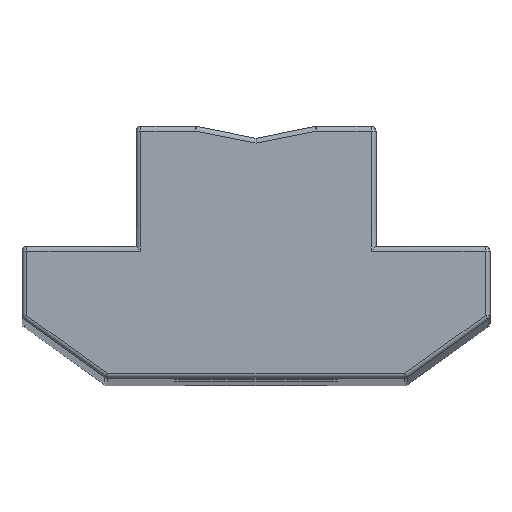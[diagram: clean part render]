
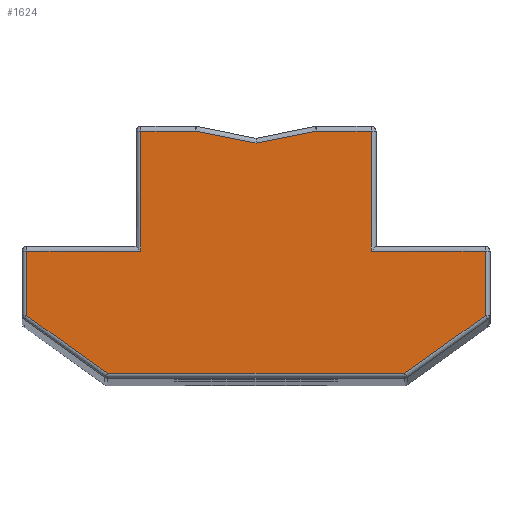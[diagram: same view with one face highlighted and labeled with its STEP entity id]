
A CAD part, top view. The second image highlights one B-rep face of the part: STEP entity #1624.
In plain terms, the highlighted planar face has unit normal (0, 0, 1).
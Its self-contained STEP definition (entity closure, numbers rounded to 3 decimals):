
#1 = VERTEX_POINT ( 'NONE', #2025 ) ;
#5 = LINE ( 'NONE', #2404, #1922 ) ;
#42 = VERTEX_POINT ( 'NONE', #1827 ) ;
#73 = EDGE_CURVE ( 'NONE', #1657, #575, #5, .T. ) ;
#88 = LINE ( 'NONE', #628, #454 ) ;
#99 = VERTEX_POINT ( 'NONE', #1658 ) ;
#112 = ORIENTED_EDGE ( 'NONE', *, *, #166, .T. ) ;
#118 = ORIENTED_EDGE ( 'NONE', *, *, #1436, .T. ) ;
#133 = LINE ( 'NONE', #1544, #499 ) ;
#140 = DIRECTION ( 'NONE',  ( 0., -1., 0. ) ) ;
#164 = CARTESIAN_POINT ( 'NONE',  ( 2.52, 10.3, 90. ) ) ;
#166 = EDGE_CURVE ( 'NONE', #1, #99, #2318, .T. ) ;
#176 = ORIENTED_EDGE ( 'NONE', *, *, #898, .T. ) ;
#181 = VECTOR ( 'NONE', #1756, 1000. ) ;
#198 = VERTEX_POINT ( 'NONE', #2414 ) ;
#245 = DIRECTION ( 'NONE',  ( 0., 0., -1. ) ) ;
#273 = LINE ( 'NONE', #2392, #2197 ) ;
#295 = ORIENTED_EDGE ( 'NONE', *, *, #1137, .T. ) ;
#297 = LINE ( 'NONE', #1564, #181 ) ;
#302 = CARTESIAN_POINT ( 'NONE',  ( 9.55, 5.3, 90. ) ) ;
#303 = VECTOR ( 'NONE', #932, 1000. ) ;
#308 = CARTESIAN_POINT ( 'NONE',  ( 0., 5.3, 90. ) ) ;
#337 = VERTEX_POINT ( 'NONE', #302 ) ;
#352 = EDGE_CURVE ( 'NONE', #337, #567, #1475, .T. ) ;
#364 = LINE ( 'NONE', #2010, #2174 ) ;
#427 = CARTESIAN_POINT ( 'NONE',  ( 6.186, 0.2, 90. ) ) ;
#454 = VECTOR ( 'NONE', #2125, 1000. ) ;
#457 = AXIS2_PLACEMENT_3D ( 'NONE', #1386, #245, #1545 ) ;
#476 = VECTOR ( 'NONE', #488, 1000. ) ;
#481 = ORIENTED_EDGE ( 'NONE', *, *, #549, .T. ) ;
#488 = DIRECTION ( 'NONE',  ( -1., 0., 0. ) ) ;
#492 = EDGE_CURVE ( 'NONE', #198, #942, #2120, .T. ) ;
#499 = VECTOR ( 'NONE', #818, 1000. ) ;
#549 = EDGE_CURVE ( 'NONE', #1519, #1107, #133, .T. ) ;
#567 = VERTEX_POINT ( 'NONE', #1009 ) ;
#575 = VERTEX_POINT ( 'NONE', #1562 ) ;
#589 = CARTESIAN_POINT ( 'NONE',  ( 0., 10.3, 90. ) ) ;
#618 = EDGE_CURVE ( 'NONE', #1394, #1, #88, .T. ) ;
#623 = CARTESIAN_POINT ( 'NONE',  ( 9.55, 0., 90. ) ) ;
#628 = CARTESIAN_POINT ( 'NONE',  ( 1.884, 9.419, 90. ) ) ;
#676 = ORIENTED_EDGE ( 'NONE', *, *, #73, .T. ) ;
#697 = ORIENTED_EDGE ( 'NONE', *, *, #1686, .T. ) ;
#734 = VECTOR ( 'NONE', #1751, 1000. ) ;
#743 = CARTESIAN_POINT ( 'NONE',  ( -4.8, 5.3, 90. ) ) ;
#812 = CARTESIAN_POINT ( 'NONE',  ( 1.995, -2.793, 90. ) ) ;
#818 = DIRECTION ( 'NONE',  ( 1., 0., 0. ) ) ;
#821 = CARTESIAN_POINT ( 'NONE',  ( 4.8, 0., 90. ) ) ;
#864 = FACE_OUTER_BOUND ( 'NONE', #1862, .T. ) ;
#866 = LINE ( 'NONE', #623, #926 ) ;
#898 = EDGE_CURVE ( 'NONE', #99, #2106, #364, .T. ) ;
#924 = CARTESIAN_POINT ( 'NONE',  ( 0., 10.3, 90. ) ) ;
#926 = VECTOR ( 'NONE', #1931, 1000. ) ;
#932 = DIRECTION ( 'NONE',  ( -1., 0., 0. ) ) ;
#942 = VERTEX_POINT ( 'NONE', #164 ) ;
#957 = ORIENTED_EDGE ( 'NONE', *, *, #1411, .T. ) ;
#992 = PLANE ( 'NONE',  #457 ) ;
#1009 = CARTESIAN_POINT ( 'NONE',  ( 4.8, 5.3, 90. ) ) ;
#1078 = DIRECTION ( 'NONE',  ( -0.981, -0.196, 0. ) ) ;
#1107 = VERTEX_POINT ( 'NONE', #427 ) ;
#1137 = EDGE_CURVE ( 'NONE', #42, #337, #866, .T. ) ;
#1193 = VECTOR ( 'NONE', #1742, 1000. ) ;
#1250 = LINE ( 'NONE', #821, #734 ) ;
#1269 = DIRECTION ( 'NONE',  ( -1., 0., 0. ) ) ;
#1333 = ORIENTED_EDGE ( 'NONE', *, *, #2282, .T. ) ;
#1386 = CARTESIAN_POINT ( 'NONE',  ( 0., 0., 90. ) ) ;
#1392 = CARTESIAN_POINT ( 'NONE',  ( -9.55, 5.3, 90. ) ) ;
#1394 = VERTEX_POINT ( 'NONE', #1612 ) ;
#1411 = EDGE_CURVE ( 'NONE', #2106, #1657, #2259, .T. ) ;
#1436 = EDGE_CURVE ( 'NONE', #942, #1394, #273, .T. ) ;
#1475 = LINE ( 'NONE', #308, #476 ) ;
#1519 = VERTEX_POINT ( 'NONE', #2067 ) ;
#1544 = CARTESIAN_POINT ( 'NONE',  ( 0., 0.2, 90. ) ) ;
#1545 = DIRECTION ( 'NONE',  ( -1., 0., 0. ) ) ;
#1562 = CARTESIAN_POINT ( 'NONE',  ( -9.55, 2.603, 90. ) ) ;
#1564 = CARTESIAN_POINT ( 'NONE',  ( -1.995, -2.793, 90. ) ) ;
#1612 = CARTESIAN_POINT ( 'NONE',  ( 0., 9.796, 90. ) ) ;
#1624 = ADVANCED_FACE ( 'NONE', ( #864 ), #992, .F. ) ;
#1652 = EDGE_CURVE ( 'NONE', #567, #198, #1250, .T. ) ;
#1657 = VERTEX_POINT ( 'NONE', #1392 ) ;
#1658 = CARTESIAN_POINT ( 'NONE',  ( -4.8, 10.3, 90. ) ) ;
#1681 = VECTOR ( 'NONE', #2090, 1000. ) ;
#1686 = EDGE_CURVE ( 'NONE', #575, #1519, #297, .T. ) ;
#1736 = LINE ( 'NONE', #812, #1193 ) ;
#1742 = DIRECTION ( 'NONE',  ( 0.814, 0.581, 0. ) ) ;
#1751 = DIRECTION ( 'NONE',  ( 0., 1., 0. ) ) ;
#1756 = DIRECTION ( 'NONE',  ( 0.814, -0.581, 0. ) ) ;
#1767 = VECTOR ( 'NONE', #1269, 1000. ) ;
#1810 = ORIENTED_EDGE ( 'NONE', *, *, #618, .T. ) ;
#1816 = ORIENTED_EDGE ( 'NONE', *, *, #492, .T. ) ;
#1827 = CARTESIAN_POINT ( 'NONE',  ( 9.55, 2.603, 90. ) ) ;
#1851 = DIRECTION ( 'NONE',  ( 0., -1., 0. ) ) ;
#1862 = EDGE_LOOP ( 'NONE', ( #2281, #2094, #1816, #118, #1810, #112, #176, #957, #676, #697, #481, #1333, #295 ) ) ;
#1922 = VECTOR ( 'NONE', #1851, 1000. ) ;
#1931 = DIRECTION ( 'NONE',  ( 0., 1., 0. ) ) ;
#1990 = CARTESIAN_POINT ( 'NONE',  ( 0., 5.3, 90. ) ) ;
#2010 = CARTESIAN_POINT ( 'NONE',  ( -4.8, 0., 90. ) ) ;
#2025 = CARTESIAN_POINT ( 'NONE',  ( -2.52, 10.3, 90. ) ) ;
#2067 = CARTESIAN_POINT ( 'NONE',  ( -6.186, 0.2, 90. ) ) ;
#2090 = DIRECTION ( 'NONE',  ( -1., 0., 0. ) ) ;
#2094 = ORIENTED_EDGE ( 'NONE', *, *, #1652, .T. ) ;
#2106 = VERTEX_POINT ( 'NONE', #743 ) ;
#2120 = LINE ( 'NONE', #589, #1681 ) ;
#2125 = DIRECTION ( 'NONE',  ( -0.981, 0.196, 0. ) ) ;
#2174 = VECTOR ( 'NONE', #140, 1000. ) ;
#2197 = VECTOR ( 'NONE', #1078, 1000. ) ;
#2259 = LINE ( 'NONE', #1990, #1767 ) ;
#2281 = ORIENTED_EDGE ( 'NONE', *, *, #352, .T. ) ;
#2282 = EDGE_CURVE ( 'NONE', #1107, #42, #1736, .T. ) ;
#2318 = LINE ( 'NONE', #924, #303 ) ;
#2392 = CARTESIAN_POINT ( 'NONE',  ( -1.884, 9.419, 90. ) ) ;
#2404 = CARTESIAN_POINT ( 'NONE',  ( -9.55, 0., 90. ) ) ;
#2414 = CARTESIAN_POINT ( 'NONE',  ( 4.8, 10.3, 90. ) ) ;
